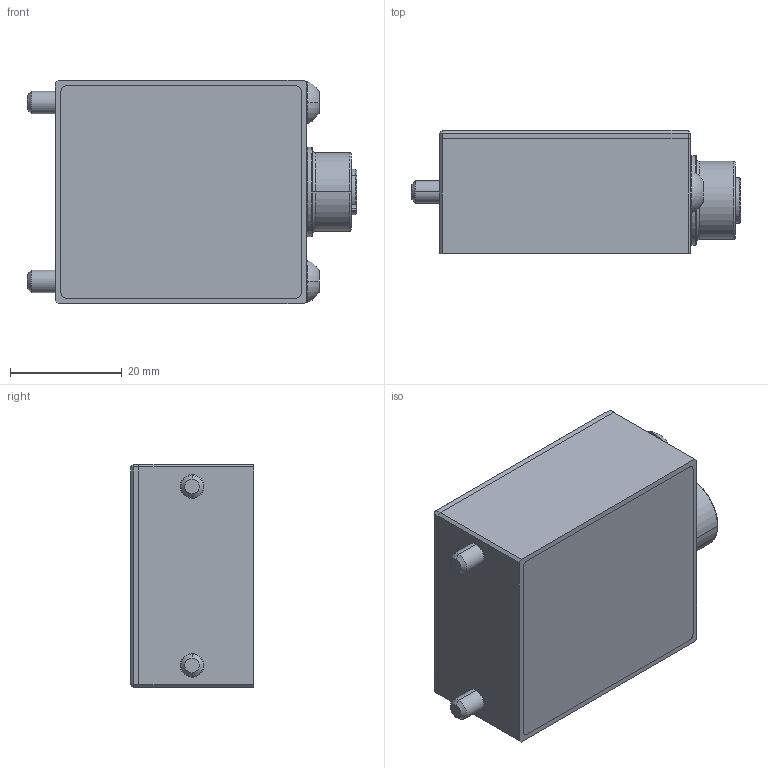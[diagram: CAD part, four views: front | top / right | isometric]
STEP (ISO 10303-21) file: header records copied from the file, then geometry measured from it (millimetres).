
FILE_DESCRIPTION (( 'STEP AP203' ), '1' );
FILE_NAME ('K0E012721_20241211_zg.STEP', '2024-12-11T15:02:09', ( '' ), ( '' ), 'SwSTEP 2.0', 'SolidWorks 2023', '' );
FILE_SCHEMA (( 'CONFIG_CONTROL_DESIGN' ));
Length unit declared in the file: millimetre
Products named in the file (9): 0E011628_SACC-CIP-M12FS-12P SMD SH; ISO7380-1-M4_FLACHKOPFSCHR. ISO7380-1_M4x50-A2-50; 0E012529_GEHÄUSEVERSCHRAUBUNG; 0E012713_LED LICHTLEITER; 0E012629_LP_C40_SPULENPLATINE_V1; 0E012617_GEHÄUSE BASE; 0E012617_1_BESCHRIFTUNG C40_0E012721Remote; K0E012721_20241211_zg; 0E012618_DECKEL
Assembly tree (10 placements, depth 2):
  K0E012721_20241211_zg
    ISO7380-1-M4_FLACHKOPFSCHR. ISO7380-1_M4x50-A2-50  x2
    0E012713_LED LICHTLEITER  x2
    0E011628_SACC-CIP-M12FS-12P SMD SH
    0E012529_GEHÄUSEVERSCHRAUBUNG
    0E012617_GEHÄUSE BASE
    0E012618_DECKEL
    0E012629_LP_C40_SPULENPLATINE_V1
    0E012617_1_BESCHRIFTUNG C40_0E012721Remote
Bounding box: 58.9 x 22.01 x 40.01 mm (x, y, z)
Volume: 14095.2 mm3; surface area: 21200.5 mm2
Topology: 196 solids, 196 shells, 3353 faces, 8510 edges, 5584 vertices
Faces by surface type: plane 1836, bspline 1059, cylinder 310, cone 86, torus 58, sphere 4
Entity records: 151186 total; most frequent: CARTESIAN_POINT 77392, ORIENTED_EDGE 16804, DIRECTION 11358, EDGE_CURVE 8402, VERTEX_POINT 5523, VECTOR 5378, LINE 5378, EDGE_LOOP 3481
